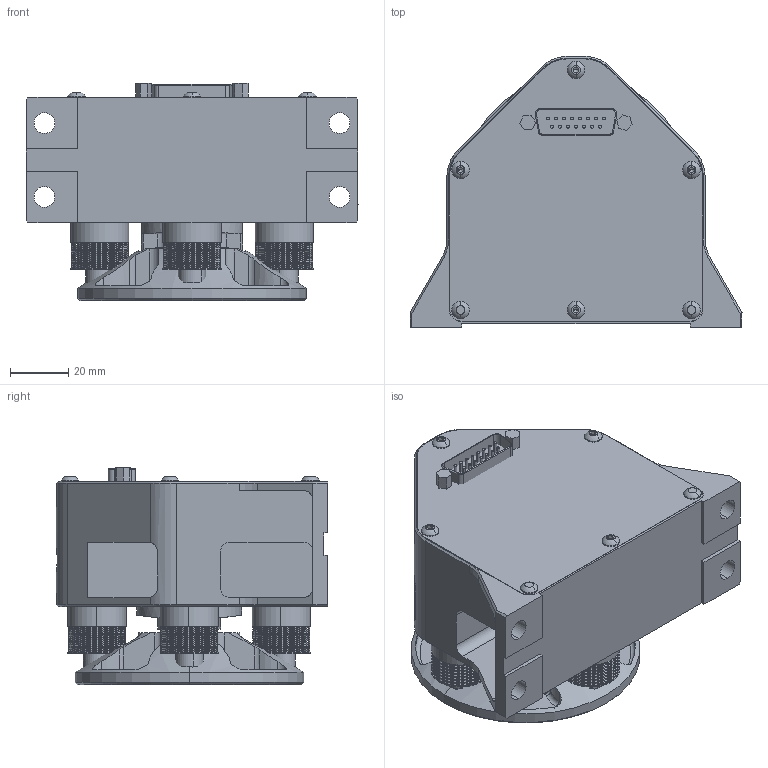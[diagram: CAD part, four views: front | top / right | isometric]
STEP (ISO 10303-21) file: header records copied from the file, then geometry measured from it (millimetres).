
FILE_DESCRIPTION (( 'STEP AP203' ), '1' );
FILE_NAME ('OIM3300 Simple Model.STEP', '2020-02-24T17:57:49', ( '' ), ( '' ), 'SwSTEP 2.0', 'SolidWorks 2017', '' );
FILE_SCHEMA (( 'CONFIG_CONTROL_DESIGN' ));
Products named in the file (1): OIM3300 Simple Model
Bounding box: 114.3 x 93.34 x 74.78 mm (x, y, z)
Volume: 264208.2 mm3; surface area: 143049.2 mm2
Topology: 159 solids, 159 shells, 3203 faces, 8385 edges, 5390 vertices
Faces by surface type: plane 2107, cylinder 724, torus 304, cone 52, sphere 16
Entity records: 99776 total; most frequent: CARTESIAN_POINT 20775, ORIENTED_EDGE 16754, DIRECTION 15765, EDGE_CURVE 8377, LINE 6049, VECTOR 6049, VERTEX_POINT 5390, AXIS2_PLACEMENT_3D 4858
